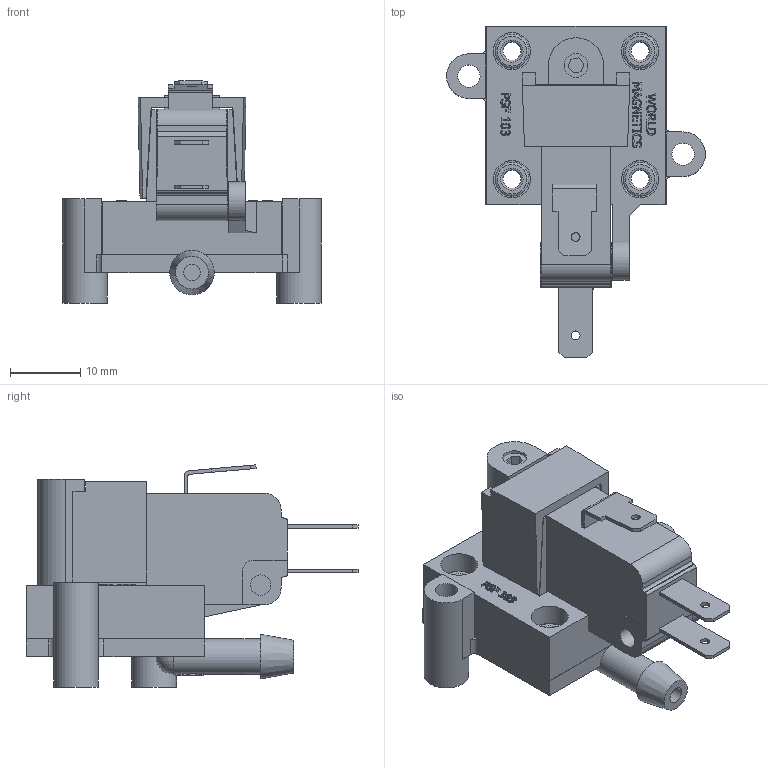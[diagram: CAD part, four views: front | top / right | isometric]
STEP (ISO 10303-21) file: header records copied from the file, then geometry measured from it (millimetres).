
FILE_DESCRIPTION((''),'2;1');
FILE_NAME('G:\DRAWINGS\SWITCH\INVENTOR DRAWINGS\WORLD MAGNETICS SWITCH\WM SALES STP FILES\902X.stp','2011-05-19T12:10:45',('dale'),(''),'Autodesk Inventor 2009','Autodesk Inventor 2009','');
FILE_SCHEMA(('AUTOMOTIVE_DESIGN { 1 0 10303 214 1 1 1 1 }'));
Length unit declared in the file: inch
Products named in the file (7): 902X; 60942-STP; 60836-STP; 60339-STP; 60193; 60016; 60344
Assembly tree (9 placements, depth 2):
  902X
    60942-STP
    60836-STP
    60339-STP
    60193  x4
    60016
    60344
Bounding box: 36.83 x 47.27 x 31.64 mm (x, y, z)
Volume: 12907.3 mm3; surface area: 10792.7 mm2
Topology: 10 solids, 10 shells, 658 faces, 1697 edges, 1118 vertices
Faces by surface type: plane 374, bspline 199, cylinder 65, torus 16, cone 3, sphere 1
Full cylindrical faces by diameter (mm): 1.27 x3, 2.362 x1, 2.565 x4, 2.896 x1, 3.073 x4, 3.372 x1, 4.166 x1, 4.572 x4, 4.826 x4, 5.08 x5, 6.35 x2
Entity records: 26251 total; most frequent: CARTESIAN_POINT 12268, ORIENTED_EDGE 3064, DIRECTION 2227, EDGE_CURVE 1532, VERTEX_POINT 1045, VECTOR 1029, LINE 1029, EDGE_LOOP 733
